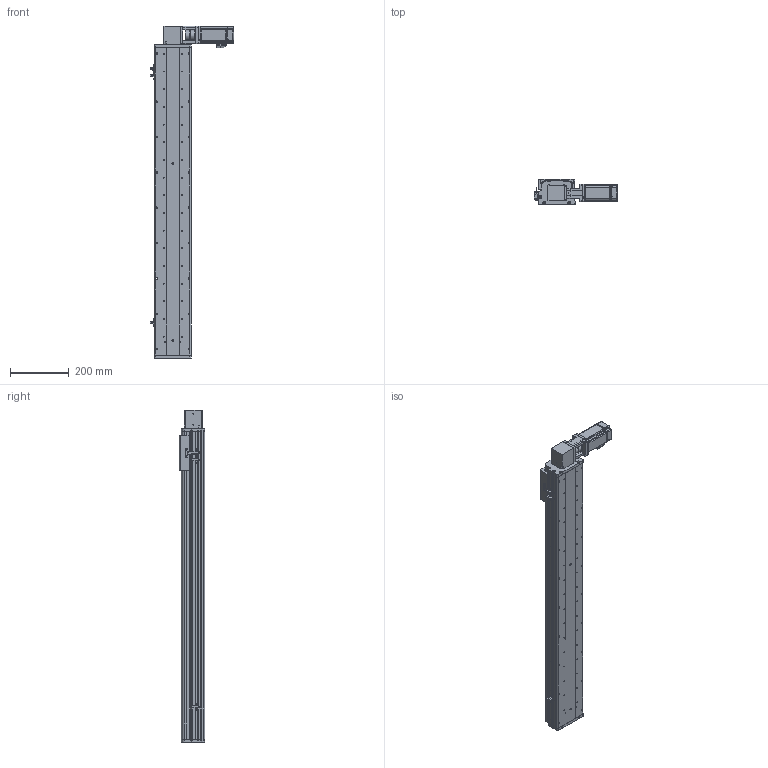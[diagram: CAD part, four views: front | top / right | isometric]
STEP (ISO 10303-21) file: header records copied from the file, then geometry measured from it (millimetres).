
FILE_DESCRIPTION (( 'STEP AP214' ), '1' );
FILE_NAME ('KSD125B-S850-MRT-CM.STEP', '2017-10-21T07:00:09', ( '微软用户' ), ( '微软中国' ), 'SwSTEP 2.0', 'SolidWorks 2014', '' );
FILE_SCHEMA (( 'AUTOMOTIVE_DESIGN' ));
Length unit declared in the file: millimetre
Products named in the file (16): 125模组同步带-尾端板1; KSD125模组同步带-滑动座1; KSD125B-S850-MRT-CM; 100宽马达安装板同步带左; KSD125模组850行程同步带-防尘盖; 125模组850行程同步带-底板; MHMD042G1CA_2_03; KSD125模组同步带-防撞垫2; CS-34X32-10X14; 100遵鎮湛假蚾啣1 ; 覜茼え68遵圉猾敕; U倰嫖萇假蚾璃; U倰嫖萇EEㄜSX672; KSD125模组同步带-防撞垫1; 100宽安装板同步带带电机座400W,86; 前端板-125宽模组同步带
Assembly tree (19 placements, depth 2):
  KSD125B-S850-MRT-CM
    KSD125模组同步带-滑动座1
    125模组同步带-尾端板1
    前端板-125宽模组同步带
    100宽安装板同步带带电机座400W,86
    KSD125模组同步带-防撞垫1
    U倰嫖萇EEㄜSX672  x3
    U倰嫖萇假蚾璃  x3
    覜茼え68遵圉猾敕
    100遵鎮湛假蚾啣1 
    CS-34X32-10X14
    KSD125模组同步带-防撞垫2
    MHMD042G1CA_2_03
    125模组850行程同步带-底板
    KSD125模组850行程同步带-防尘盖
    100宽马达安装板同步带左
Bounding box: 282.7 x 86 x 1127 mm (x, y, z)
Volume: 3509112.4 mm3; surface area: 1161622.4 mm2
Topology: 18 solids, 21 shells, 1696 faces, 4864 edges, 3208 vertices
Faces by surface type: cylinder 889, plane 704, cone 81, bspline 22
Entity records: 59676 total; most frequent: CARTESIAN_POINT 12062, DIRECTION 8735, ORIENTED_EDGE 8248, EDGE_CURVE 4202, AXIS2_PLACEMENT_3D 3249, VERTEX_POINT 2800, LINE 2237, VECTOR 2237
